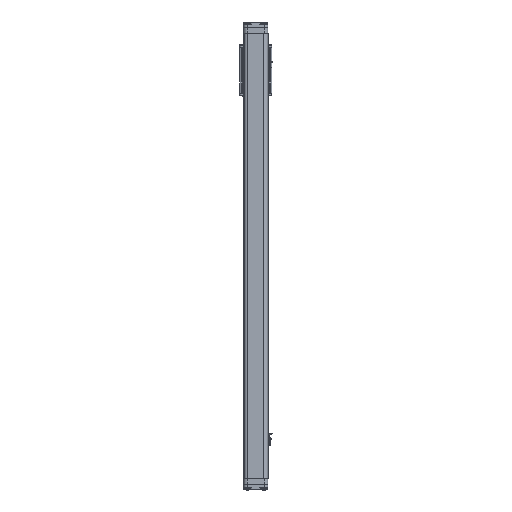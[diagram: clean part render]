
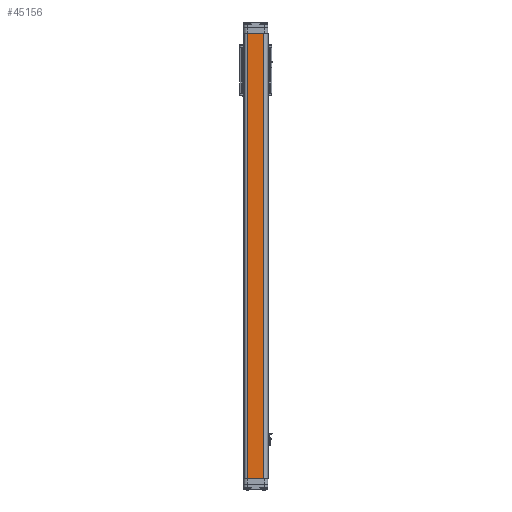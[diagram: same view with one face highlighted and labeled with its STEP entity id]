
A CAD part, front view. The second image highlights one B-rep face of the part: STEP entity #45156.
In plain terms, the highlighted planar face has unit normal (0, -1, 0).
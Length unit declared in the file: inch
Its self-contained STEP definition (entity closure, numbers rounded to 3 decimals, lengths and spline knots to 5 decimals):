
#405 = LINE ( 'NONE', #36050, #15889 ) ;
#2579 = DIRECTION ( 'NONE',  ( 0., -1., 0. ) ) ;
#4104 = EDGE_LOOP ( 'NONE', ( #24724, #24621, #7779, #20842 ) ) ;
#4359 = EDGE_CURVE ( 'NONE', #52761, #49276, #31636, .T. ) ;
#5546 = CARTESIAN_POINT ( 'NONE',  ( -1.4375, -2.12509, 0. ) ) ;
#6643 = PLANE ( 'NONE',  #27962 ) ;
#7779 = ORIENTED_EDGE ( 'NONE', *, *, #26845, .F. ) ;
#8964 = CARTESIAN_POINT ( 'NONE',  ( 1.4375, -2.12509, -77.906 ) ) ;
#11037 = CARTESIAN_POINT ( 'NONE',  ( -1.4375, -2.12509, -77.906 ) ) ;
#11412 = DIRECTION ( 'NONE',  ( 1., 0., 0. ) ) ;
#13565 = VECTOR ( 'NONE', #61470, 39.37008 ) ;
#14905 = DIRECTION ( 'NONE',  ( 0., 0., 1. ) ) ;
#15889 = VECTOR ( 'NONE', #14905, 39.37008 ) ;
#20842 = ORIENTED_EDGE ( 'NONE', *, *, #65921, .T. ) ;
#24621 = ORIENTED_EDGE ( 'NONE', *, *, #4359, .F. ) ;
#24724 = ORIENTED_EDGE ( 'NONE', *, *, #28364, .T. ) ;
#26845 = EDGE_CURVE ( 'NONE', #33644, #52761, #40987, .T. ) ;
#27150 = DIRECTION ( 'NONE',  ( 0., 0., -1. ) ) ;
#27962 = AXIS2_PLACEMENT_3D ( 'NONE', #63099, #2579, #27150 ) ;
#28364 = EDGE_CURVE ( 'NONE', #56576, #49276, #405, .T. ) ;
#28472 = FACE_OUTER_BOUND ( 'NONE', #4104, .T. ) ;
#31001 = DIRECTION ( 'NONE',  ( 1., 0., 0. ) ) ;
#31636 = LINE ( 'NONE', #46774, #46650 ) ;
#33644 = VERTEX_POINT ( 'NONE', #61390 ) ;
#35439 = VECTOR ( 'NONE', #11412, 39.37008 ) ;
#36050 = CARTESIAN_POINT ( 'NONE',  ( 1.4375, -2.12509, -77.906 ) ) ;
#37175 = CARTESIAN_POINT ( 'NONE',  ( 1.4375, -2.12509, 0. ) ) ;
#40987 = LINE ( 'NONE', #11037, #13565 ) ;
#45156 = ADVANCED_FACE ( 'NONE', ( #28472 ), #6643, .T. ) ;
#46650 = VECTOR ( 'NONE', #31001, 39.37008 ) ;
#46716 = LINE ( 'NONE', #57454, #35439 ) ;
#46774 = CARTESIAN_POINT ( 'NONE',  ( -2.2185, -2.12509, 0. ) ) ;
#49276 = VERTEX_POINT ( 'NONE', #37175 ) ;
#52761 = VERTEX_POINT ( 'NONE', #5546 ) ;
#56576 = VERTEX_POINT ( 'NONE', #8964 ) ;
#57454 = CARTESIAN_POINT ( 'NONE',  ( -2.125, -2.12509, -77.906 ) ) ;
#61390 = CARTESIAN_POINT ( 'NONE',  ( -1.4375, -2.12509, -77.906 ) ) ;
#61470 = DIRECTION ( 'NONE',  ( 0., 0., 1. ) ) ;
#63099 = CARTESIAN_POINT ( 'NONE',  ( -2.2185, -2.12509, -77.906 ) ) ;
#65921 = EDGE_CURVE ( 'NONE', #33644, #56576, #46716, .T. ) ;
